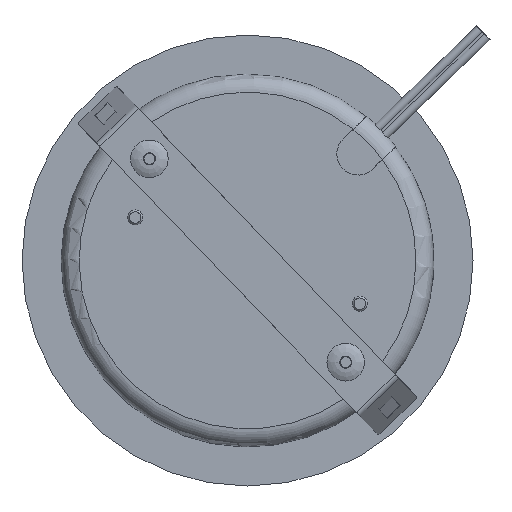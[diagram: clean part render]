
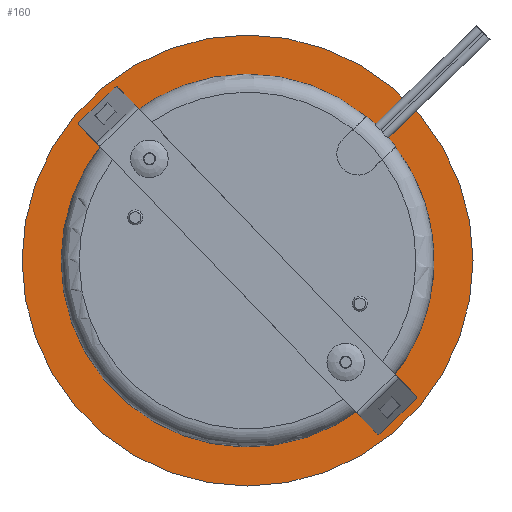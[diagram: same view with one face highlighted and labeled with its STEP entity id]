
A CAD part, front view. The second image highlights one B-rep face of the part: STEP entity #160.
In plain terms, the highlighted planar face has unit normal (0, -1, 0).
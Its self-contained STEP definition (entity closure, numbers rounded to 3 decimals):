
#160=ADVANCED_FACE('',(#523,#524),#246,.T.);
#246=PLANE('',#1502);
#523=FACE_BOUND('',#591,.T.);
#524=FACE_BOUND('',#592,.T.);
#591=EDGE_LOOP('',(#728));
#592=EDGE_LOOP('',(#729));
#728=ORIENTED_EDGE('',*,*,#1247,.F.);
#729=ORIENTED_EDGE('',*,*,#1235,.F.);
#1098=VERTEX_POINT('',#2071);
#1106=VERTEX_POINT('',#2127);
#1235=EDGE_CURVE('',#1098,#1098,#1425,.T.);
#1247=EDGE_CURVE('',#1106,#1106,#1432,.T.);
#1425=CIRCLE('',#1491,31.);
#1432=CIRCLE('',#1501,37.5);
#1491=AXIS2_PLACEMENT_3D('',#2070,#1652,#1653);
#1501=AXIS2_PLACEMENT_3D('',#2126,#1675,#1676);
#1502=AXIS2_PLACEMENT_3D('',#2128,#1677,#1678);
#1652=DIRECTION('',(0.,-1.,0.));
#1653=DIRECTION('',(0.,0.,-1.));
#1675=DIRECTION('',(0.,1.,0.));
#1676=DIRECTION('',(0.,0.,1.));
#1677=DIRECTION('',(0.,-1.,0.));
#1678=DIRECTION('',(1.,0.,0.));
#2070=CARTESIAN_POINT('',(90.,-1.3,0.));
#2071=CARTESIAN_POINT('',(90.,-1.3,-31.));
#2126=CARTESIAN_POINT('',(90.,-1.3,0.));
#2127=CARTESIAN_POINT('',(90.,-1.3,37.5));
#2128=CARTESIAN_POINT('',(90.,-1.3,0.));
